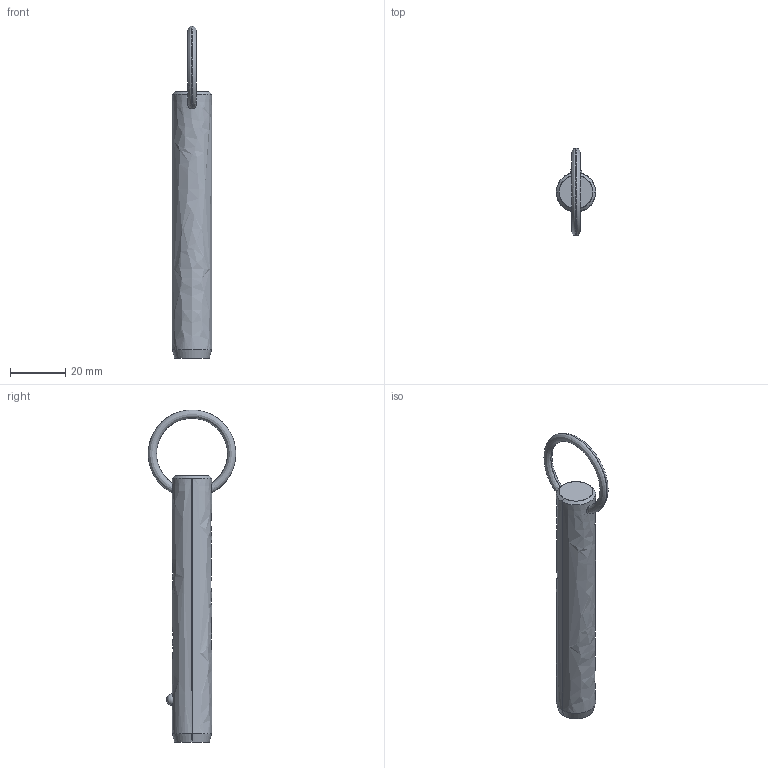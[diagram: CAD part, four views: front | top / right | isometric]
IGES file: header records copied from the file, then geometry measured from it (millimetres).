
Start section: SolidWorks IGES file using analytic representation for surfaces
Global section: file name: C:\Users\liam_\OneDrive\Documents\WORK\Work for WixRoyd\Job Files\J-00019 - Matt Davis CAD Checking\04. CAD Drawings\automotion20190605\P1250.2_v2\P1250.2_v2_20190729_IGES\P1250.056-280.igs; native system: SolidWorks 2017; preprocessor: SolidWorks 2017; author: liam_; date: 190729.231914; units: millimetre
Bounding box: 14.2 x 31.68 x 120.2 mm (x, y, z)
Surface area: 5266.3 mm2 (no closed solid volume)
Topology: 0 solids, 0 shells, 12 faces, 285 edges, 283 vertices
Faces by surface type: revolution 8, bspline 4
